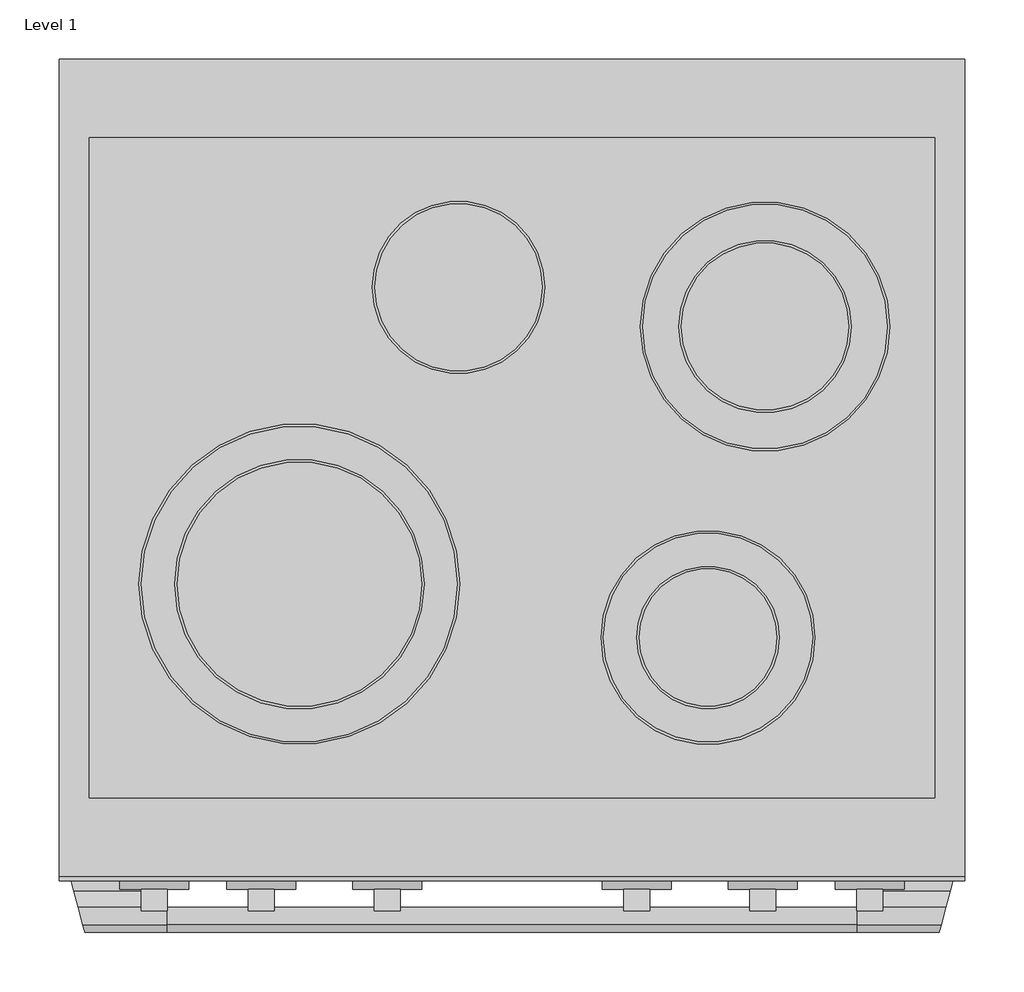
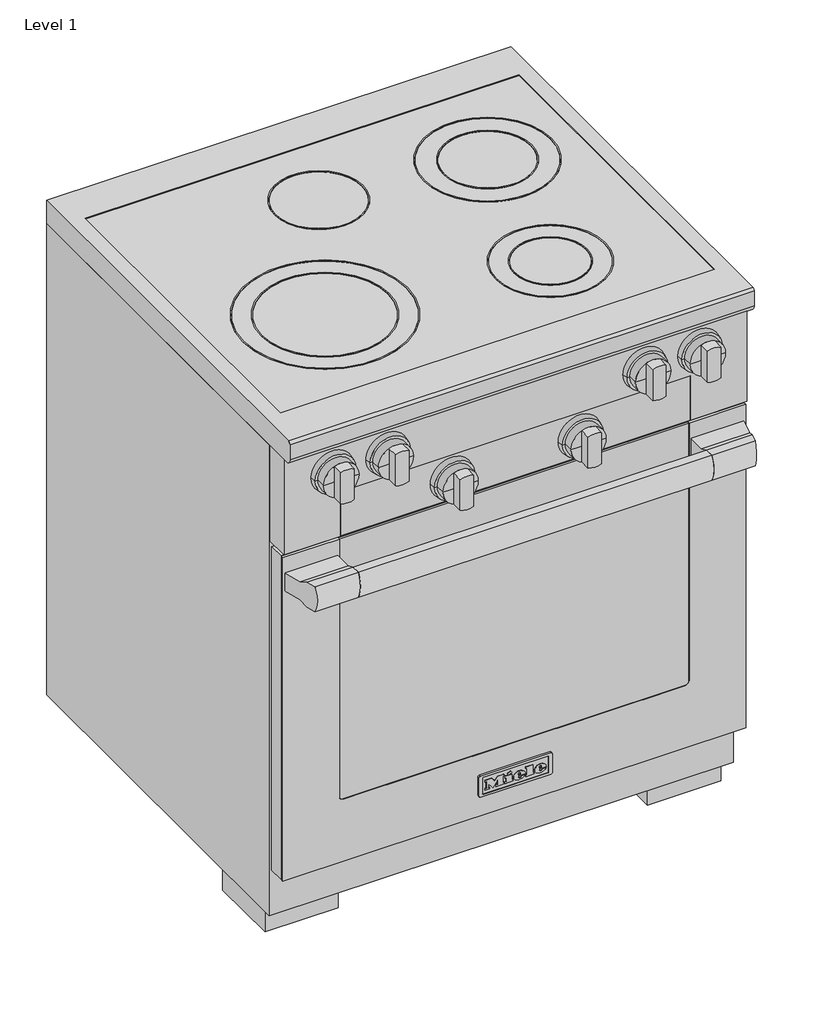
# One storey: 1 proxy.
"""IFC4 building model written with IfcOpenShell, lengths in millimetres."""

from ifc_helpers import new_model, si_unit, origin, place, context, project, spatial, transform, mapped, element, save
from components import specialty_equipment_0d91f95b, specialty_equipment_497d5aad

model = new_model("IFC4")

# Units and contexts
model_context = context("Model", 3, world=origin())
ifc_project = project(units=[si_unit("LENGTHUNIT", "METRE", prefix="MILLI")], contexts=[model_context])

# Site, building, storey
site = spatial("IfcSite", under=ifc_project)
building = spatial("IfcBuilding", under=site)
storey = spatial("IfcBuildingStorey", under=building, Name="Level 1", Elevation=0.0)

# Proxy
placement = place(None, origin())
specialty_equipment_shape = specialty_equipment_0d91f95b(model_context)
specialty_equipment_2_shape = specialty_equipment_497d5aad(model_context)
element("IfcBuildingElementProxy", 1, Name="09810110_USA_HR1421_EDST-CLST : 25142151_USA_9810110_HR1421_EDST-CLST", ObjectType="09810110_USA_HR1421_EDST-CLST : 25142151_USA_9810110_HR1421_EDST-CLST", at=placement, inside=storey, context=model_context, shape_type="MappedRepresentation", body=[
    mapped(specialty_equipment_shape, transform((0.0, 0.0, 0.0), x_axis=(1.0, 0.0, 0.0), y_axis=(0.0, 1.0, 0.0), z_axis=(0.0, 0.0, 1.0))),
    mapped(specialty_equipment_2_shape, transform((0.0, 0.0, 0.0), x_axis=(1.0, 0.0, 0.0), y_axis=(0.0, 1.0, 0.0), z_axis=(0.0, 0.0, 1.0))),
])

save(model, "model.ifc")
